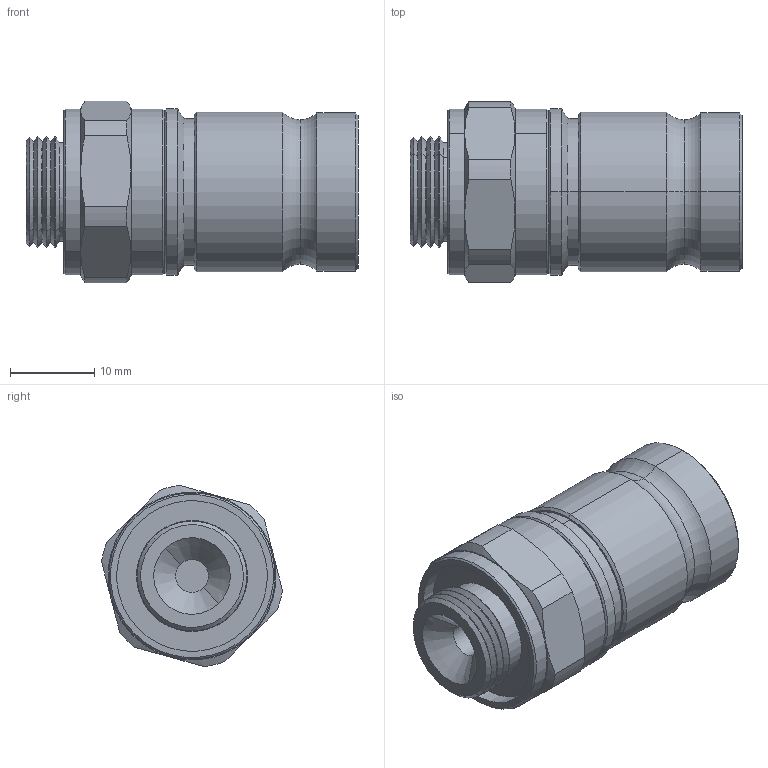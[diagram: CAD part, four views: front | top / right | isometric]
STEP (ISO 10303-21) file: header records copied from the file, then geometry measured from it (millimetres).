
FILE_DESCRIPTION (( 'STEP AP203' ), '1' );
FILE_NAME ('QD2-FTG4.STEP', '2025-01-02T02:52:04', ( 'aksong' ), ( '' ), 'SwSTEP 2.0', 'SolidWorks 2012', '' );
FILE_SCHEMA (( 'CONFIG_CONTROL_DESIGN' ));
Length unit declared in the file: millimetre
Products named in the file (3): QD2-FTG4; G1_4, Female 喻闌; female body
Assembly tree (2 placements, depth 2):
  QD2-FTG4
    female body
    G1_4, Female 喻闌
Bounding box: 39.5 x 21.53 x 21.59 mm (x, y, z)
Volume: 9645.7 mm3; surface area: 5014.6 mm2
Topology: 2 solids, 2 shells, 149 faces, 306 edges, 178 vertices
Faces by surface type: cone 56, cylinder 54, plane 27, torus 12
Entity records: 4283 total; most frequent: DIRECTION 768, CARTESIAN_POINT 746, ORIENTED_EDGE 612, AXIS2_PLACEMENT_3D 332, EDGE_CURVE 306, CIRCLE 178, VERTEX_POINT 178, EDGE_LOOP 168
